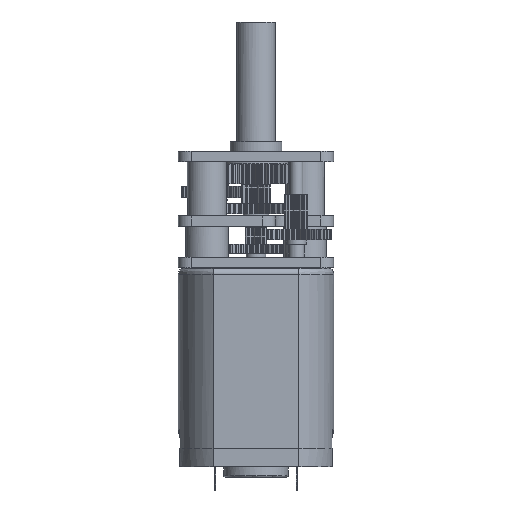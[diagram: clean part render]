
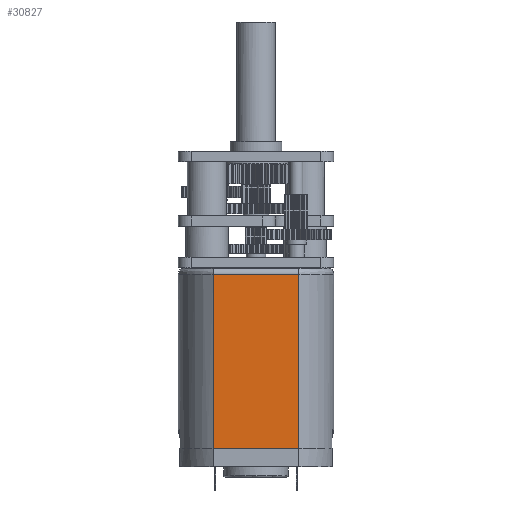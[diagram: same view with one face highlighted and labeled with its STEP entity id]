
A CAD part, front view. The second image highlights one B-rep face of the part: STEP entity #30827.
In plain terms, the highlighted planar face has unit normal (0, -1, 0).
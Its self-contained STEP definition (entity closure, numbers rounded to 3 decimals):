
#9395 = EDGE_CURVE ( 'NONE', #35160, #54637, #74353, .T. ) ;
#9552 = CARTESIAN_POINT ( 'NONE',  ( -3.317, -5., -0.5 ) ) ;
#9969 = B_SPLINE_CURVE_WITH_KNOTS ( 'NONE', 3,
 ( #69257, #37624, #117962, #69907 ),
 .UNSPECIFIED., .F., .F.,
 ( 4, 4 ),
 ( 0., 1. ),
 .UNSPECIFIED. ) ;
#12604 = DIRECTION ( 'NONE',  ( 0., 0., -1. ) ) ;
#16248 = CARTESIAN_POINT ( 'NONE',  ( -3.316, -5., -14. ) ) ;
#18897 = CARTESIAN_POINT ( 'NONE',  ( 0., -5., -14. ) ) ;
#19538 = DIRECTION ( 'NONE',  ( 1., 0., 0. ) ) ;
#22348 = AXIS2_PLACEMENT_3D ( 'NONE', #18897, #59011, #19538 ) ;
#24301 = CARTESIAN_POINT ( 'NONE',  ( 3.317, -5., -0.5 ) ) ;
#30827 = ADVANCED_FACE ( 'NONE', ( #90485 ), #128765, .T. ) ;
#35160 = VERTEX_POINT ( 'NONE', #63147 ) ;
#35250 = CARTESIAN_POINT ( 'NONE',  ( 3.316, -5., -14. ) ) ;
#37624 = CARTESIAN_POINT ( 'NONE',  ( -3.317, -5., -5. ) ) ;
#47653 = EDGE_LOOP ( 'NONE', ( #58284, #129654, #93014, #53070 ) ) ;
#53070 = ORIENTED_EDGE ( 'NONE', *, *, #105280, .T. ) ;
#54637 = VERTEX_POINT ( 'NONE', #75827 ) ;
#56483 = VERTEX_POINT ( 'NONE', #9552 ) ;
#58284 = ORIENTED_EDGE ( 'NONE', *, *, #83086, .T. ) ;
#59011 = DIRECTION ( 'NONE',  ( 0., -1., 0. ) ) ;
#62841 = CARTESIAN_POINT ( 'NONE',  ( 0., -5., -0.5 ) ) ;
#63147 = CARTESIAN_POINT ( 'NONE',  ( 3.317, -5., -0.5 ) ) ;
#64752 = VECTOR ( 'NONE', #12604, 1000. ) ;
#66877 = CARTESIAN_POINT ( 'NONE',  ( 1.105, -5., -14. ) ) ;
#69257 = CARTESIAN_POINT ( 'NONE',  ( -3.317, -5., -0.5 ) ) ;
#69907 = CARTESIAN_POINT ( 'NONE',  ( -3.316, -5., -14. ) ) ;
#74353 = LINE ( 'NONE', #24301, #64752 ) ;
#75827 = CARTESIAN_POINT ( 'NONE',  ( 3.316, -5., -14. ) ) ;
#83086 = EDGE_CURVE ( 'NONE', #56483, #119664, #9969, .T. ) ;
#90485 = FACE_OUTER_BOUND ( 'NONE', #47653, .T. ) ;
#92095 = VECTOR ( 'NONE', #121396, 1000. ) ;
#93014 = ORIENTED_EDGE ( 'NONE', *, *, #9395, .F. ) ;
#98112 = B_SPLINE_CURVE_WITH_KNOTS ( 'NONE', 3,
 ( #16248, #117505, #66877, #35250 ),
 .UNSPECIFIED., .F., .F.,
 ( 4, 4 ),
 ( 0., 1. ),
 .UNSPECIFIED. ) ;
#98140 = EDGE_CURVE ( 'NONE', #119664, #54637, #98112, .T. ) ;
#105280 = EDGE_CURVE ( 'NONE', #35160, #56483, #112825, .T. ) ;
#112825 = LINE ( 'NONE', #62841, #92095 ) ;
#117505 = CARTESIAN_POINT ( 'NONE',  ( -1.105, -5., -14. ) ) ;
#117962 = CARTESIAN_POINT ( 'NONE',  ( -3.317, -5., -9.5 ) ) ;
#119664 = VERTEX_POINT ( 'NONE', #121541 ) ;
#121396 = DIRECTION ( 'NONE',  ( -1., 0., 0. ) ) ;
#121541 = CARTESIAN_POINT ( 'NONE',  ( -3.316, -5., -14. ) ) ;
#128765 = PLANE ( 'NONE',  #22348 ) ;
#129654 = ORIENTED_EDGE ( 'NONE', *, *, #98140, .T. ) ;
